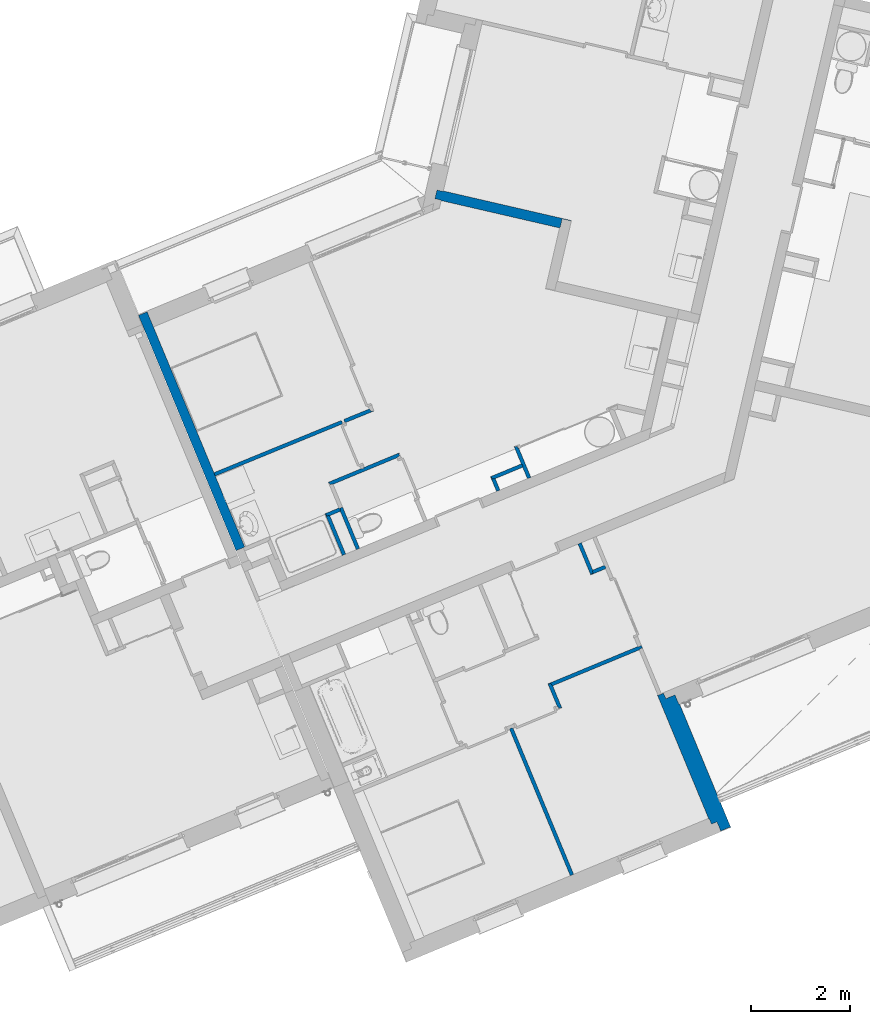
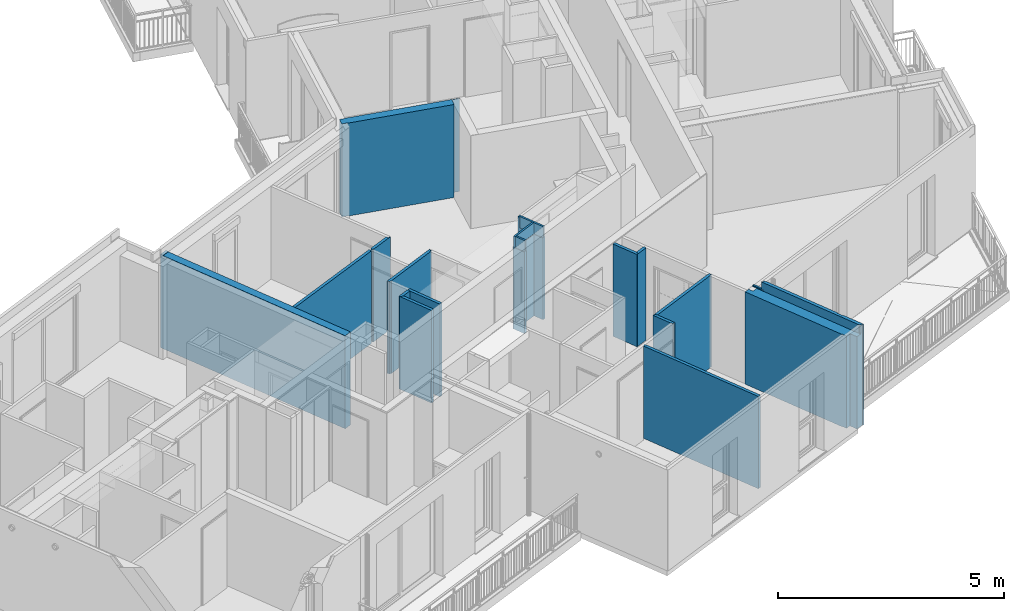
# One storey, part 43 of 90: 16 walls.
"""IFC2X3 building model written with IfcOpenShell, lengths in metres."""

from ifc_helpers import new_model, entity, si_unit, converted_unit, derived_unit, money_unit, direction, frame, origin_with_axes, place, context, subcontext, project, spatial, faceted_brep, material, material_list, type_object, element, save


model = new_model("IFC2X3")

# Units and contexts
model_context = context("Model", 3, precision=1e-05, world=origin_with_axes(), true_north=direction((0.0, 1.0)))
body_context = subcontext(model_context, "Body", "Model", "MODEL_VIEW")
ifc_project = project(units=[si_unit("LENGTHUNIT", "METRE"), si_unit("AREAUNIT", "SQUARE_METRE"), si_unit("VOLUMEUNIT", "CUBIC_METRE"), converted_unit("PLANEANGLEUNIT", "DEGREE", entity("IfcPlaneAngleMeasure", 0.0174532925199), si_unit("PLANEANGLEUNIT", "RADIAN"), dimensions=[0, 0, 0, 0, 0, 0, 0]), si_unit("SOLIDANGLEUNIT", "STERADIAN"), money_unit("EUR"), converted_unit("TIMEUNIT", "Year", entity("IfcTimeMeasure", 31556926.0), si_unit("TIMEUNIT", "SECOND"), dimensions=[0, 0, 1, 0, 0, 0, 0]), si_unit("MASSUNIT", "GRAM", prefix="KILO"), si_unit("THERMODYNAMICTEMPERATUREUNIT", "DEGREE_CELSIUS"), si_unit("LUMINOUSINTENSITYUNIT", "LUMEN"), si_unit("ENERGYUNIT", "JOULE", prefix="MEGA"), derived_unit("THERMALCONDUCTANCEUNIT", [(si_unit("POWERUNIT", "WATT"), 1), (si_unit("LENGTHUNIT", "METRE"), -1), (si_unit("THERMODYNAMICTEMPERATUREUNIT", "KELVIN"), -1)]), derived_unit("SPECIFICHEATCAPACITYUNIT", [(si_unit("ENERGYUNIT", "JOULE"), 1), (si_unit("MASSUNIT", "GRAM", prefix="KILO"), -1), (si_unit("THERMODYNAMICTEMPERATUREUNIT", "KELVIN"), -1)]), derived_unit("MASSDENSITYUNIT", [(si_unit("MASSUNIT", "GRAM", prefix="KILO"), 1), (si_unit("VOLUMEUNIT", "CUBIC_METRE"), -1)])], contexts=[model_context])

# Site, building, storey
site_placement = place(None, origin_with_axes())
site = spatial("IfcSite", under=ifc_project, at=site_placement, Name="Site", CompositionType="ELEMENT")
building_placement = place(site_placement, origin_with_axes())
building = spatial("IfcBuilding", under=site, at=building_placement, Name="Bâtiment", CompositionType="ELEMENT")
storey_placement = place(building_placement, frame((0.0, 0.0, 2.72), z_axis=(0.0, 0.0, 1.0), x_axis=(1.0, 0.0, 0.0)))
storey = spatial("IfcBuildingStorey", under=building, at=storey_placement, Name="R+1", CompositionType="ELEMENT", Elevation=2.72)

# Walls
ifc_material_1 = material(Name="Finition int - Plaque de plâtre")
ifc_material_2 = material(Name="Isolation - Laine de roche")
ifc_material_list_1 = material_list([ifc_material_1, ifc_material_2, ifc_material_1])
wall_type_1 = type_object("IfcWallType", Name="3 - Cloison 72mm Placostil 74", PredefinedType="USERDEFINED")
wall_1_placement = place(storey_placement, frame((-21.6551757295, -18.5120342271, 0.0), z_axis=(0.0, 0.0, 1.0), x_axis=(0.923701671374, 0.383112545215, 0.0)))
element("IfcWall", 1, at=wall_1_placement, inside=storey, type_object=wall_type_1, material=ifc_material_list_1, Name="Cloison Placostil 72/48", ObjectType="PARTITIONING", context=body_context, shape_type="Brep", body=[
    faceted_brep([(1.47399999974, -0.013, 2.5), (1.47399999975, 0.0, 2.5), (0.697460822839, 0.0, 2.5), (0.697460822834, -0.013, 2.5), (1.47399999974, -0.013, 0.0), (1.47399999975, 0.0, 0.0), (0.697460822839, 0.0, 0.0), (0.697460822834, -0.013, 0.0)], [[[0, 1, 2, 3]], [[1, 0, 4, 5]], [[1, 5, 6, 2]], [[7, 3, 2, 6]], [[4, 0, 3, 7]], [[5, 4, 7, 6]]]),
    faceted_brep([(0.649460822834, -0.013, 2.5), (0.649460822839, 0.0, 2.5), (-0.074, 0.0, 2.5), (-0.0740000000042, -0.013, 2.5), (0.649460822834, -0.013, 0.0), (0.649460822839, 0.0, 0.0), (-0.074, 0.0, 0.0), (-0.0740000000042, -0.013, 0.0)], [[[0, 1, 2, 3]], [[1, 0, 4, 5]], [[1, 5, 6, 2]], [[7, 3, 2, 6]], [[4, 0, 3, 7]], [[5, 4, 7, 6]]]),
    faceted_brep([(1.46099999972, -0.061, 2.5), (1.46099999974, -0.013, 2.5), (-0.0610000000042, -0.013, 2.5), (-0.0610000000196, -0.061, 2.5), (1.46099999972, -0.061, 0.0), (1.46099999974, -0.013, 0.0), (-0.0610000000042, -0.013, 0.0), (-0.0610000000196, -0.061, 0.0)], [[[0, 1, 2, 3]], [[1, 0, 4, 5]], [[1, 5, 6, 2]], [[7, 3, 2, 6]], [[4, 0, 3, 7]], [[5, 4, 7, 6]]]),
    faceted_brep([(1.41299999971, -0.074, 2.5), (1.41299999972, -0.061, 2.5), (-0.0130000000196, -0.061, 2.5), (-0.0130000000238, -0.074, 2.5), (1.41299999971, -0.074, 0.0), (1.41299999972, -0.061, 0.0), (-0.0130000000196, -0.061, 0.0), (-0.0130000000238, -0.074, 0.0)], [[[0, 1, 2, 3]], [[1, 0, 4, 5]], [[1, 5, 6, 2]], [[7, 3, 2, 6]], [[4, 0, 3, 7]], [[5, 4, 7, 6]]]),
])
wall_2_placement = place(storey_placement, frame((-17.0353278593, -23.0286213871, 0.0), z_axis=(0.0, 0.0, 1.0), x_axis=(-0.383112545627, 0.923701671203, 0.0)))
element("IfcWall", 2, at=wall_2_placement, inside=storey, type_object=wall_type_1, material=ifc_material_list_1, Name="Cloison Placostil 72/48", ObjectType="PARTITIONING", context=body_context, shape_type="Brep", body=[
    faceted_brep([(0.483900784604, 0.061, 2.49), (-0.0129999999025, 0.061, 2.49), (-0.0129999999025, 0.061, 0.0), (0.483900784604, 0.061, 0.0), (-0.0129999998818, 0.074, 2.49), (0.483900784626, 0.074, 2.49), (-0.0129999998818, 0.074, 0.0), (0.483900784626, 0.074, 0.0)], [[[0, 1, 2, 3]], [[4, 1, 0, 5]], [[1, 4, 6, 2]], [[7, 3, 2, 6]], [[5, 0, 3, 7]], [[4, 5, 7, 6]]]),
    faceted_brep([(0.470900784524, 0.013, 2.49), (-0.0609999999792, 0.013, 2.49), (-0.0609999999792, 0.013, 0.0), (0.470900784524, 0.013, 0.0), (-0.0609999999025, 0.061, 2.49), (0.470900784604, 0.061, 2.49), (-0.0609999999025, 0.061, 0.0), (0.470900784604, 0.061, 0.0)], [[[0, 1, 2, 3]], [[4, 1, 0, 5]], [[1, 4, 6, 2]], [[7, 3, 2, 6]], [[5, 0, 3, 7]], [[4, 5, 7, 6]]]),
    faceted_brep([(0.422900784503, 0.0, 2.49), (-0.074, 0.0, 2.49), (-0.074, 0.0, 0.0), (0.422900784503, 0.0, 0.0), (-0.0739999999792, 0.013, 2.49), (0.422900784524, 0.013, 2.49), (-0.0739999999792, 0.013, 0.0), (0.422900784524, 0.013, 0.0)], [[[0, 1, 2, 3]], [[4, 1, 0, 5]], [[1, 4, 6, 2]], [[7, 3, 2, 6]], [[5, 0, 3, 7]], [[4, 5, 7, 6]]]),
])
wall_3_placement = place(storey_placement, frame((-16.423962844, -20.4107605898, 0.0), z_axis=(0.0, 0.0, 1.0), x_axis=(0.92370167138, 0.383112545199, 0.0)))
element("IfcWall", 3, at=wall_3_placement, inside=storey, type_object=wall_type_1, material=ifc_material_list_1, Name="Cloison Placostil 72/48", ObjectType="PARTITIONING", context=body_context, shape_type="Brep", body=[
    faceted_brep([(0.323540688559, 0.074, 2.49), (0.323540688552, 0.061, 2.49), (0.323540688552, 0.061, 0.0), (0.323540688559, 0.074, 0.0), (0.0740000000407, 0.061, 2.49), (0.0740000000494, 0.074, 2.49), (0.0740000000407, 0.061, 0.0), (0.0740000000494, 0.074, 0.0)], [[[0, 1, 2, 3]], [[4, 1, 0, 5]], [[1, 4, 6, 2]], [[3, 2, 6, 7]], [[5, 0, 3, 7]], [[4, 5, 7, 6]]]),
    faceted_brep([(0.336540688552, 0.061, 2.49), (0.336540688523, 0.013, 2.49), (0.336540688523, 0.013, 0.0), (0.336540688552, 0.061, 0.0), (0.0610000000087, 0.013, 2.49), (0.0610000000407, 0.061, 2.49), (0.0610000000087, 0.013, 0.0), (0.0610000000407, 0.061, 0.0)], [[[0, 1, 2, 3]], [[4, 1, 0, 5]], [[1, 4, 6, 2]], [[3, 2, 6, 7]], [[5, 0, 3, 7]], [[4, 5, 7, 6]]]),
    faceted_brep([(0.323540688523, 0.013, 2.49), (0.323540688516, 0.0, 2.49), (0.323540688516, 0.0, 0.0), (0.323540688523, 0.013, 0.0), (0.013, 0.0, 2.49), (0.0130000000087, 0.013, 2.49), (0.013, 0.0, 0.0), (0.0130000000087, 0.013, 0.0)], [[[0, 1, 2, 3]], [[4, 1, 0, 5]], [[1, 4, 6, 2]], [[3, 2, 6, 7]], [[5, 0, 3, 7]], [[4, 5, 7, 6]]]),
])
wall_4_placement = place(storey_placement, frame((-17.2207163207, -22.5816414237, 0.0), z_axis=(0.0, 0.0, 1.0), x_axis=(0.923701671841, 0.383112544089, 0.0)))
element("IfcWall", 4, at=wall_4_placement, inside=storey, type_object=wall_type_1, material=ifc_material_list_1, Name="Cloison Placostil 72/48", ObjectType="PARTITIONING", context=body_context, shape_type="Brep", body=[
    faceted_brep([(1.90419488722, 0.0, 2.49), (1.90419488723, -0.013, 2.49), (1.90419488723, -0.013, 0.0), (1.90419488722, 0.0, 0.0), (-0.0609999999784, -0.013, 2.49), (-0.061, 0.0, 2.49), (-0.0609999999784, -0.013, 0.0), (-0.061, 0.0, 0.0)], [[[0, 1, 2, 3]], [[4, 1, 0, 5]], [[1, 4, 6, 2]], [[3, 2, 6, 7]], [[5, 0, 3, 7]], [[4, 5, 7, 6]]]),
    faceted_brep([(1.96519488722, 0.0, 2.49), (1.96519488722, -0.013, 2.49), (1.96519488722, -0.013, 0.0), (1.96519488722, 0.0, 0.0), (1.95219488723, -0.013, 2.49), (1.95219488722, 0.0, 2.49), (1.95219488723, -0.013, 0.0), (1.95219488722, 0.0, 0.0)], [[[0, 1, 2, 3]], [[4, 1, 0, 5]], [[1, 4, 6, 2]], [[7, 3, 2, 6]], [[5, 0, 3, 7]], [[4, 5, 7, 6]]]),
    faceted_brep([(1.96519488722, -0.013, 2.49), (1.96519488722, -0.061, 2.49), (1.96519488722, -0.061, 0.0), (1.96519488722, -0.013, 0.0), (-0.0129999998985, -0.061, 2.49), (-0.0129999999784, -0.013, 2.49), (-0.0129999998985, -0.061, 0.0), (-0.0129999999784, -0.013, 0.0)], [[[0, 1, 2, 3]], [[4, 1, 0, 5]], [[1, 4, 6, 2]], [[7, 3, 2, 6]], [[5, 0, 3, 7]], [[4, 5, 7, 6]]]),
    faceted_brep([(1.90419488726, -0.061, 2.49), (1.90419488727, -0.074, 2.49), (1.90419488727, -0.074, 0.0), (1.90419488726, -0.061, 0.0), (1.23140608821e-10, -0.074, 2.49), (1.01504582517e-10, -0.061, 2.49), (1.23140608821e-10, -0.074, 0.0), (1.01504582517e-10, -0.061, 0.0)], [[[0, 1, 2, 3]], [[4, 1, 0, 5]], [[1, 4, 6, 2]], [[3, 2, 6, 7]], [[5, 0, 3, 7]], [[4, 5, 7, 6]]]),
    faceted_brep([(1.96519488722, -0.061, 2.49), (1.96519488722, -0.074, 2.49), (1.96519488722, -0.074, 0.0), (1.96519488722, -0.061, 0.0), (1.95219488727, -0.074, 2.49), (1.95219488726, -0.061, 2.49), (1.95219488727, -0.074, 0.0), (1.95219488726, -0.061, 0.0)], [[[0, 1, 2, 3]], [[4, 1, 0, 5]], [[1, 4, 6, 2]], [[7, 3, 2, 6]], [[5, 0, 3, 7]], [[4, 5, 7, 6]]]),
])
wall_5_placement = place(storey_placement, frame((-20.8008531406, -17.1002798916, 0.0), z_axis=(0.0, 0.0, 1.0), x_axis=(-0.925270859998, -0.379307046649, 0.0)))
element("IfcWall", 5, at=wall_5_placement, inside=storey, type_object=wall_type_1, material=ifc_material_list_1, Name="Cloison Placostil 72/48", ObjectType="PARTITIONING", context=body_context, shape_type="Brep", body=[
    faceted_brep([(0.619597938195, -0.013, 2.5), (0.61954442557, 0.0, 2.5), (0.013000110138, 0.0, 2.5), (0.0130536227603, -0.013, 2.5), (0.619597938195, -0.013, 0.0), (0.61954442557, 0.0, 0.0), (0.013000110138, 0.0, 0.0), (0.0130536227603, -0.013, 0.0)], [[[0, 1, 2, 3]], [[1, 0, 4, 5]], [[1, 5, 6, 2]], [[7, 3, 2, 6]], [[4, 0, 3, 7]], [[5, 4, 7, 6]]]),
    faceted_brep([(0.693598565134, -0.013, 2.5), (3.46402934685, -0.013, 2.5), (3.46402934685, 0.0, 2.5), (0.69354505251, 0.0, 2.5), (0.693598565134, -0.013, 0.0), (3.46402934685, -0.013, 0.0), (3.46402934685, 0.0, 0.0), (0.69354505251, 0.0, 0.0)], [[[0, 1, 2, 3]], [[4, 5, 1, 0]], [[2, 1, 5, 6]], [[3, 2, 6, 7]], [[4, 0, 3, 7]], [[7, 6, 5, 4]]]),
    faceted_brep([(0.632795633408, -0.061, 2.5), (0.632598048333, -0.013, 2.5), (0.0610540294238, -0.013, 2.5), (0.0612516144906, -0.061, 2.5), (0.632795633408, -0.061, 0.0), (0.632598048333, -0.013, 0.0), (0.0610540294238, -0.013, 0.0), (0.0612516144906, -0.061, 0.0)], [[[0, 1, 2, 3]], [[1, 0, 4, 5]], [[1, 5, 6, 2]], [[7, 3, 2, 6]], [[4, 0, 3, 7]], [[5, 4, 7, 6]]]),
    faceted_brep([(0.680796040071, -0.061, 2.5), (3.46402934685, -0.061, 2.5), (3.46402934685, -0.013, 2.5), (0.680598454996, -0.013, 2.5), (0.680796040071, -0.061, 0.0), (3.46402934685, -0.061, 0.0), (3.46402934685, -0.013, 0.0), (0.680598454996, -0.013, 0.0)], [[[0, 1, 2, 3]], [[4, 5, 1, 0]], [[2, 1, 5, 6]], [[3, 2, 6, 7]], [[4, 0, 3, 7]], [[7, 6, 5, 4]]]),
    faceted_brep([(0.619849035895, -0.074, 2.5), (0.61979552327, -0.061, 2.5), (0.0742517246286, -0.061, 2.5), (0.0743052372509, -0.074, 2.5), (0.619849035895, -0.074, 0.0), (0.61979552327, -0.061, 0.0), (0.0742517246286, -0.061, 0.0), (0.0743052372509, -0.074, 0.0)], [[[0, 1, 2, 3]], [[1, 0, 4, 5]], [[1, 5, 6, 2]], [[7, 3, 2, 6]], [[4, 0, 3, 7]], [[5, 4, 7, 6]]]),
    faceted_brep([(0.693849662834, -0.074, 2.5), (3.46402934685, -0.074, 2.5), (3.46402934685, -0.061, 2.5), (0.69379615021, -0.061, 2.5), (0.693849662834, -0.074, 0.0), (3.46402934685, -0.074, 0.0), (3.46402934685, -0.061, 0.0), (0.69379615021, -0.061, 0.0)], [[[0, 1, 2, 3]], [[4, 5, 1, 0]], [[2, 1, 5, 6]], [[3, 2, 6, 7]], [[4, 0, 3, 7]], [[7, 6, 5, 4]]]),
])
wall_6_placement = place(storey_placement, frame((-17.7023301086, -18.4683136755, 0.0), z_axis=(0.0, 0.0, 1.0), x_axis=(-0.383112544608, 0.923701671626, 0.0)))
element("IfcWall", 6, at=wall_6_placement, inside=storey, type_object=wall_type_1, material=ifc_material_list_1, Name="Cloison Placostil 72/48", ObjectType="PARTITIONING", context=body_context, shape_type="Brep", body=[
    faceted_brep([(0.263000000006, -0.013, 2.2), (-1.30345512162e-10, -0.013, 2.2), (0.0, -0.013, 0.0), (0.263000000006, -0.013, 0.0), (-1.37095668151e-10, 0.0, 2.2), (0.263, 0.0, 2.2), (0.0, 0.0, 0.0), (0.263, 0.0, 0.0)], [[[0, 1, 2, 3]], [[4, 1, 0, 5]], [[1, 4, 6, 2]], [[7, 3, 2, 6]], [[5, 0, 3, 7]], [[4, 5, 7, 6]]]),
    faceted_brep([(0.649999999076, -0.013, 2.5), (0.649999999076, -0.013, 2.2), (0.311000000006, -0.013, 2.2), (0.311000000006, -0.013, 0.0), (0.69999999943, -0.013, 0.0), (0.69999999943, -0.013, 2.5), (0.64999999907, 0.0, 2.5), (0.64999999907, 0.0, 2.2), (0.311, 0.0, 2.2), (0.311, 0.0, 0.0), (0.699999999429, 0.0, 0.0), (0.699999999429, 0.0, 2.5)], [[[0, 1, 2, 3, 4, 5]], [[1, 0, 6, 7]], [[8, 2, 1, 7]], [[2, 8, 9, 3]], [[10, 4, 3, 9]], [[11, 5, 4, 10]], [[6, 0, 5, 11]], [[7, 6, 11, 10, 9, 8]]]),
    faceted_brep([(0.686999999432, -0.061, 2.5), (0.68699999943, -0.013, 2.5), (0.0, -0.013, 2.5), (0.0, -0.061, 2.5), (0.686999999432, -0.061, 0.0), (0.68699999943, -0.013, 0.0), (0.0, -0.013, 0.0), (0.0, -0.061, 0.0)], [[[0, 1, 2, 3]], [[1, 0, 4, 5]], [[1, 5, 6, 2]], [[7, 3, 2, 6]], [[4, 0, 3, 7]], [[5, 4, 7, 6]]]),
    faceted_brep([(0.638999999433, -0.074, 2.2), (0.0, -0.074, 2.2), (0.0, -0.074, 0.0), (0.638999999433, -0.074, 0.0), (-1.05412567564e-10, -0.061, 2.2), (0.638999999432, -0.061, 2.2), (0.0, -0.061, 0.0), (0.638999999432, -0.061, 0.0)], [[[0, 1, 2, 3]], [[4, 1, 0, 5]], [[1, 4, 6, 2]], [[7, 3, 2, 6]], [[5, 0, 3, 7]], [[4, 5, 7, 6]]]),
])
wall_7_placement = place(storey_placement, frame((-17.826458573, -18.1690343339, 0.0), z_axis=(0.0, 0.0, 1.0), x_axis=(-0.923701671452, -0.383112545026, 0.0)))
element("IfcWall", 7, at=wall_7_placement, inside=storey, type_object=wall_type_1, material=ifc_material_list_1, Name="Cloison Placostil 72/48", ObjectType="PARTITIONING", context=body_context, shape_type="Brep", body=[
    faceted_brep([(0.0, 0.061, 2.2), (0.0, 0.074, 2.2), (0.0, 0.074, 0.0), (0.0, 0.061, 0.0), (0.613000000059, 0.074, 2.2), (0.613000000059, 0.061, 2.2), (0.613000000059, 0.074, 0.0), (0.613000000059, 0.061, 0.0)], [[[0, 1, 2, 3]], [[4, 1, 0, 5]], [[1, 4, 6, 2]], [[6, 7, 3, 2]], [[5, 0, 3, 7]], [[4, 5, 7, 6]]]),
    faceted_brep([(0.661000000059, 0.061, 0.0), (0.661000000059, 0.013, 0.0), (-0.0130000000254, 0.013, 0.0), (-0.0130000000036, 0.061, 0.0), (0.661000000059, 0.061, 2.5), (0.661000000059, 0.013, 2.5), (-0.0130000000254, 0.013, 2.5), (-0.0130000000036, 0.061, 2.5)], [[[0, 1, 2, 3]], [[1, 0, 4, 5]], [[1, 5, 6, 2]], [[7, 3, 2, 6]], [[4, 0, 3, 7]], [[5, 4, 7, 6]]]),
    faceted_brep([(0.0, 0.0, 2.2), (0.0, 0.013, 2.2), (0.0, 0.013, 0.0), (0.0, 0.0, 0.0), (0.674000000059, 0.013, 2.2), (0.674000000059, 0.0, 2.2), (0.674000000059, 0.013, 0.0), (0.674000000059, 0.0, 0.0)], [[[0, 1, 2, 3]], [[4, 1, 0, 5]], [[1, 4, 6, 2]], [[6, 7, 3, 2]], [[5, 0, 3, 7]], [[4, 5, 7, 6]]]),
])
wall_8_placement = place(storey_placement, frame((-18.0212047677, -23.4375216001, 0.0), z_axis=(0.0, 0.0, 1.0), x_axis=(0.383112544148, -0.923701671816, 0.0)))
element("IfcWall", 8, at=wall_8_placement, inside=storey, type_object=wall_type_1, material=ifc_material_list_1, Name="Cloison Placostil 72/48", ObjectType="PARTITIONING", context=body_context, shape_type="Brep", body=[
    faceted_brep([(0.0740000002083, 0.0, 2.49), (3.26900002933, 0.0, 2.49), (3.26900002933, 0.0, 0.0), (0.0740000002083, 0.0, 0.0), (3.26900002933, -0.013, 2.49), (0.0740000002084, -0.013, 2.49), (3.26900002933, -0.013, 0.0), (0.0740000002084, -0.013, 0.0)], [[[0, 1, 2, 3]], [[4, 1, 0, 5]], [[1, 4, 6, 2]], [[3, 2, 6, 7]], [[5, 0, 3, 7]], [[4, 5, 7, 6]]]),
    faceted_brep([(0.0610000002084, -0.013, 2.49), (3.26900002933, -0.013, 2.49), (3.26900002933, -0.013, 0.0), (0.0610000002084, -0.013, 0.0), (3.26900002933, -0.061, 2.49), (0.0610000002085, -0.061, 2.49), (3.26900002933, -0.061, 0.0), (0.0610000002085, -0.061, 0.0)], [[[0, 1, 2, 3]], [[4, 1, 0, 5]], [[1, 4, 6, 2]], [[3, 2, 6, 7]], [[5, 0, 3, 7]], [[4, 5, 7, 6]]]),
    faceted_brep([(0.0740000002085, -0.061, 2.49), (3.26900002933, -0.061, 2.49), (3.26900002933, -0.061, 0.0), (0.0740000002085, -0.061, 0.0), (3.26900002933, -0.074, 2.49), (0.0740000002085, -0.074, 2.49), (3.26900002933, -0.074, 0.0), (0.0740000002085, -0.074, 0.0)], [[[0, 1, 2, 3]], [[4, 1, 0, 5]], [[1, 4, 6, 2]], [[3, 2, 6, 7]], [[5, 0, 3, 7]], [[4, 5, 7, 6]]]),
])
wall_9_placement = place(storey_placement, frame((-16.6821806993, -19.7881856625, 0.0), z_axis=(0.0, 0.0, 1.0), x_axis=(0.383112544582, -0.923701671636, 0.0)))
element("IfcWall", 9, at=wall_9_placement, inside=storey, type_object=wall_type_1, material=ifc_material_list_1, Name="Cloison Placostil 72/48", ObjectType="PARTITIONING", context=body_context, shape_type="Brep", body=[
    faceted_brep([(0.0, 0.074, 2.49), (0.613000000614, 0.074, 2.49), (0.613000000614, 0.074, 0.0), (0.0, 0.074, 0.0), (0.613000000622, 0.061, 2.49), (0.0, 0.061, 2.49), (0.613000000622, 0.061, 0.0), (0.0, 0.061, 0.0)], [[[0, 1, 2, 3]], [[4, 1, 0, 5]], [[1, 4, 6, 2]], [[2, 6, 7, 3]], [[5, 0, 3, 7]], [[4, 5, 7, 6]]]),
    faceted_brep([(0.0, 0.061, 2.49), (0.661000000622, 0.061, 2.49), (0.661000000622, 0.061, 0.0), (0.0, 0.061, 0.0), (0.661000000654, 0.013, 2.49), (0.0, 0.013, 2.49), (0.661000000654, 0.013, 0.0), (0.0, 0.013, 0.0)], [[[0, 1, 2, 3]], [[4, 1, 0, 5]], [[1, 4, 6, 2]], [[2, 6, 7, 3]], [[5, 0, 3, 7]], [[4, 5, 7, 6]]]),
    faceted_brep([(0.0, 0.013, 2.49), (0.674000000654, 0.013, 2.49), (0.674000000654, 0.013, 0.0), (0.0, 0.013, 0.0), (0.674000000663, 0.0, 2.49), (0.0, 0.0, 2.49), (0.674000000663, 0.0, 0.0), (0.0, 0.0, 0.0)], [[[0, 1, 2, 3]], [[4, 1, 0, 5]], [[1, 4, 6, 2]], [[2, 6, 7, 3]], [[5, 0, 3, 7]], [[4, 5, 7, 6]]]),
])
wall_10_placement = place(storey_placement, frame((-18.4490334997, -18.4272521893, 0.0), z_axis=(0.0, 0.0, 1.0), x_axis=(0.383112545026, -0.923701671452, 0.0)))
element("IfcWall", 10, at=wall_10_placement, inside=storey, type_object=wall_type_1, material=ifc_material_list_1, Name="Cloison Placostil 72/48", ObjectType="PARTITIONING", context=body_context, shape_type="Brep", body=[
    faceted_brep([(0.074, 0.074, 2.2), (0.324000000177, 0.074, 2.2), (0.324, 0.074, 0.0), (0.074, 0.074, 0.0), (0.324000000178, 0.061, 2.2), (0.074, 0.061, 2.2), (0.324, 0.061, 0.0), (0.074, 0.061, 0.0)], [[[0, 1, 2, 3]], [[4, 1, 0, 5]], [[1, 4, 6, 2]], [[3, 2, 6, 7]], [[5, 0, 3, 7]], [[4, 5, 7, 6]]]),
    faceted_brep([(0.061, 0.061, 0.0), (0.324, 0.061, 0.0), (0.324, 0.013, 0.0), (0.061, 0.013, 0.0), (0.061, 0.061, 2.5), (0.324, 0.061, 2.5), (0.324, 0.013, 2.5), (0.061, 0.013, 2.5)], [[[0, 1, 2, 3]], [[4, 5, 1, 0]], [[2, 1, 5, 6]], [[3, 2, 6, 7]], [[4, 0, 3, 7]], [[7, 6, 5, 4]]]),
    faceted_brep([(0.013, 0.013, 2.2), (0.324000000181, 0.013, 2.2), (0.324, 0.013, 0.0), (0.013, 0.013, 0.0), (0.324000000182, 0.0, 2.2), (0.013, 0.0, 2.2), (0.324, 0.0, 0.0), (0.013, 0.0, 0.0)], [[[0, 1, 2, 3]], [[4, 1, 0, 5]], [[1, 4, 6, 2]], [[3, 2, 6, 7]], [[5, 0, 3, 7]], [[4, 5, 7, 6]]]),
])
ifc_material_3 = material(Name="Finition int - Enduit plâtre")
ifc_material_4 = material(Name="Béton")
ifc_material_list_2 = material_list([ifc_material_3, ifc_material_4, ifc_material_3])
wall_type_2 = type_object("IfcWallType", Name="2 - Murs Béton 18 + Enduit 2 Faces 200", PredefinedType="USERDEFINED")
wall_11_placement = place(storey_placement, frame((-19.7393073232, -12.5902779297, 0.0), z_axis=(0.0, 0.0, 1.0), x_axis=(0.974387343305, -0.224876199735, 0.0)))
element("IfcWall", 11, at=wall_11_placement, inside=storey, type_object=wall_type_2, material=ifc_material_list_2, Name="M_Ext-008", ObjectType="SOLIDWALL", context=body_context, shape_type="Brep", body=[
    faceted_brep([(0.344999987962, 0.01, 2.51), (2.98998157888, 0.01, 2.51), (2.98998157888, 0.00999999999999, 0.0), (0.344999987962, 0.01, 0.0), (2.98998157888, 0.0, 2.51), (0.344999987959, 0.0, 2.51), (2.98998157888, 0.0, 0.0), (0.344999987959, 0.0, 0.0)], [[[0, 1, 2, 3]], [[4, 1, 0, 5]], [[1, 4, 6, 2]], [[6, 7, 3, 2]], [[5, 0, 3, 7]], [[4, 5, 7, 6]]]),
    faceted_brep([(0.214999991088, 0.0, 2.51), (2.80998157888, 0.0, 2.51), (2.80998157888, 0.0, 0.0), (0.214999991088, 0.0, 0.0), (2.80998157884, -0.18, 2.51), (0.214999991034, -0.18, 2.51), (2.80998157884, -0.18, 0.0), (0.214999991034, -0.18, 0.0)], [[[0, 1, 2, 3]], [[4, 1, 0, 5]], [[1, 4, 6, 2]], [[6, 7, 3, 2]], [[5, 0, 3, 7]], [[4, 5, 7, 6]]]),
    faceted_brep([(0.344999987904, -0.18, 2.51), (2.79998157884, -0.18, 2.51), (2.79998157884, -0.18, 0.0), (0.344999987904, -0.18, 0.0), (2.79998157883, -0.19, 2.51), (0.344999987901, -0.19, 2.51), (2.79998157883, -0.19, 0.0), (0.344999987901, -0.19, 0.0)], [[[0, 1, 2, 3]], [[4, 1, 0, 5]], [[1, 4, 6, 2]], [[6, 7, 3, 2]], [[5, 0, 3, 7]], [[4, 5, 7, 6]]]),
])
wall_type_3 = type_object("IfcWallType", Name="3 - Cloison Gaine Technique 72mm 74", PredefinedType="USERDEFINED")
wall_12_placement = place(storey_placement, frame((-21.7899938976, -19.1752900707, 0.0), z_axis=(0.0, 0.0, 1.0), x_axis=(0.923701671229, 0.383112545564, 0.0)))
element("IfcWall", 12, at=wall_12_placement, inside=storey, type_object=wall_type_3, material=ifc_material_list_1, Name="Cloison Placostil 72/48", ObjectType="PARTITIONING", context=body_context, shape_type="Brep", body=[
    faceted_brep([(0.304633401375, -0.013, 2.5), (0.304633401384, 0.0, 2.5), (0.0, 0.0, 2.5), (0.0, -0.013, 2.5), (0.304633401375, -0.013, 0.0), (0.304633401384, 0.0, 0.0), (0.0, 0.0, 0.0), (0.0, -0.013, 0.0)], [[[0, 1, 2, 3]], [[1, 0, 4, 5]], [[1, 5, 6, 2]], [[7, 3, 2, 6]], [[4, 0, 3, 7]], [[5, 4, 7, 6]]]),
    faceted_brep([(0.317633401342, -0.061, 2.5), (0.317633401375, -0.013, 2.5), (0.013, -0.013, 2.5), (0.013, -0.061, 2.5), (0.317633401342, -0.061, 0.0), (0.317633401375, -0.013, 0.0), (0.013, -0.013, 0.0), (0.013, -0.061, 0.0)], [[[0, 1, 2, 3]], [[1, 0, 4, 5]], [[1, 5, 6, 2]], [[7, 3, 2, 6]], [[4, 0, 3, 7]], [[5, 4, 7, 6]]]),
    faceted_brep([(0.304633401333, -0.074, 2.5), (0.304633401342, -0.061, 2.5), (0.061, -0.061, 2.5), (0.061, -0.074, 2.5), (0.304633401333, -0.074, 0.0), (0.304633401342, -0.061, 0.0), (0.061, -0.061, 0.0), (0.061, -0.074, 0.0)], [[[0, 1, 2, 3]], [[1, 0, 4, 5]], [[1, 5, 6, 2]], [[7, 3, 2, 6]], [[4, 0, 3, 7]], [[5, 4, 7, 6]]]),
])
wall_13_placement = place(storey_placement, frame((-21.7899938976, -19.1752900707, 0.0), z_axis=(0.0, 0.0, 1.0), x_axis=(0.383112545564, -0.923701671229, 0.0)))
element("IfcWall", 13, at=wall_13_placement, inside=storey, type_object=wall_type_3, material=ifc_material_list_1, Name="Cloison Placostil 72/48", ObjectType="PARTITIONING", context=body_context, shape_type="Brep", body=[
    faceted_brep([(0.074, 0.074, 0.0), (0.912999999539, 0.074, 0.0), (0.912999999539, 0.061, 0.0), (0.074, 0.061, 0.0), (0.074, 0.074, 2.5), (0.912999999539, 0.074, 2.5), (0.912999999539, 0.061, 2.5), (0.074, 0.061, 2.5)], [[[0, 1, 2, 3]], [[4, 5, 1, 0]], [[2, 1, 5, 6]], [[3, 2, 6, 7]], [[4, 0, 3, 7]], [[7, 6, 5, 4]]]),
    faceted_brep([(0.061, 0.061, 0.0), (0.912999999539, 0.061, 0.0), (0.912999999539, 0.013, 0.0), (0.061, 0.013, 0.0), (0.061, 0.061, 2.5), (0.912999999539, 0.061, 2.5), (0.912999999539, 0.013, 2.5), (0.061, 0.013, 2.5)], [[[0, 1, 2, 3]], [[4, 5, 1, 0]], [[2, 1, 5, 6]], [[3, 2, 6, 7]], [[4, 0, 3, 7]], [[7, 6, 5, 4]]]),
    faceted_brep([(0.013, 0.013, 0.0), (0.912999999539, 0.013, 0.0), (0.912999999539, 0.0, 0.0), (0.013, 0.0, 0.0), (0.013, 0.013, 2.5), (0.912999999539, 0.013, 2.5), (0.912999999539, 0.0, 2.5), (0.013, 0.0, 2.5)], [[[0, 1, 2, 3]], [[4, 5, 1, 0]], [[2, 1, 5, 6]], [[3, 2, 6, 7]], [[4, 0, 3, 7]], [[7, 6, 5, 4]]]),
])
wall_14_placement = place(storey_placement, frame((-21.4352691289, -19.0422389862, 0.0), z_axis=(0.0, 0.0, 1.0), x_axis=(0.383112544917, -0.923701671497, 0.0)))
element("IfcWall", 14, at=wall_14_placement, inside=storey, type_object=wall_type_3, material=ifc_material_list_1, Name="Cloison Placostil 72/48", ObjectType="PARTITIONING", context=body_context, shape_type="Brep", body=[
    faceted_brep([(0.0, -0.013, 2.5), (0.900000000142, -0.013, 2.5), (0.900000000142, 0.0, 2.5), (0.0, 0.0, 2.5), (0.0, -0.013, 0.0), (0.900000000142, -0.013, 0.0), (0.900000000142, 0.0, 0.0), (0.0, 0.0, 0.0)], [[[0, 1, 2, 3]], [[4, 5, 1, 0]], [[2, 1, 5, 6]], [[3, 2, 6, 7]], [[4, 0, 3, 7]], [[7, 6, 5, 4]]]),
    faceted_brep([(0.0, -0.061, 2.5), (0.900000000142, -0.061, 2.5), (0.900000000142, -0.013, 2.5), (0.0, -0.013, 2.5), (0.0, -0.061, 0.0), (0.900000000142, -0.061, 0.0), (0.900000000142, -0.013, 0.0), (0.0, -0.013, 0.0)], [[[0, 1, 2, 3]], [[4, 5, 1, 0]], [[2, 1, 5, 6]], [[3, 2, 6, 7]], [[4, 0, 3, 7]], [[7, 6, 5, 4]]]),
    faceted_brep([(0.0, -0.074, 2.5), (0.900000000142, -0.074, 2.5), (0.900000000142, -0.061, 2.5), (0.0, -0.061, 2.5), (0.0, -0.074, 0.0), (0.900000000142, -0.074, 0.0), (0.900000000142, -0.061, 0.0), (0.0, -0.061, 0.0)], [[[0, 1, 2, 3]], [[4, 5, 1, 0]], [[2, 1, 5, 6]], [[3, 2, 6, 7]], [[4, 0, 3, 7]], [[7, 6, 5, 4]]]),
])
ifc_material_list_3 = material_list([ifc_material_3, ifc_material_4])
wall_type_4 = type_object("IfcWallType", Name="2 - Murs Béton 18 + Enduit 1 Face 190", PredefinedType="USERDEFINED")
wall_15_placement = place(storey_placement, frame((-25.5567966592, -15.1711523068, 0.0), z_axis=(0.0, 0.0, 1.0), x_axis=(0.383112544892, -0.923701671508, 0.0)))
element("IfcWall", 15, at=wall_15_placement, inside=storey, type_object=wall_type_4, material=ifc_material_list_3, Name="M_Ext-008", ObjectType="SOLIDWALL", context=body_context, shape_type="Brep", body=[
    faceted_brep([(0.0683226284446, 0.19, 2.52), (0.0683226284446, 0.19, 2.51), (5.1417381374, 0.19, 2.51), (5.1417381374, 0.19, 0.0), (0.0, 0.19, 0.0), (0.0, 0.19, 2.52), (0.0683231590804, 0.18, 2.52), (0.0683231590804, 0.18, 2.51), (5.1417381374, 0.18, 2.51), (5.1417381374, 0.18, 0.0), (0.0, 0.18, 0.0), (0.0, 0.18, 2.52)], [[[0, 1, 2, 3, 4, 5]], [[1, 0, 6, 7]], [[8, 2, 1, 7]], [[2, 8, 9, 3]], [[9, 10, 4, 3]], [[10, 11, 5, 4]], [[6, 0, 5, 11]], [[7, 6, 11, 10, 9, 8]]]),
    faceted_brep([(0.0683231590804, 0.18, 2.52), (0.0683231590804, 0.18, 2.51), (5.1417381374, 0.18, 2.51), (5.1417381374, 0.18, 0.0), (0.0, 0.18, 0.0), (0.0, 0.18, 2.52), (0.0683327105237, -3.74143382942e-10, 2.52), (0.0683327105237, -3.74143382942e-10, 2.51), (5.1417381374, 0.0, 2.51), (5.1417381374, 0.0, 0.0), (0.0, 0.0, 0.0), (0.0, 0.0, 2.52)], [[[0, 1, 2, 3, 4, 5]], [[1, 0, 6, 7]], [[8, 2, 1, 7]], [[2, 8, 9, 3]], [[9, 10, 4, 3]], [[10, 11, 5, 4]], [[6, 0, 5, 11]], [[7, 6, 11, 10, 9, 8]]]),
])
ifc_material_5 = material(Name="Finition ext - Crépis")
ifc_material_6 = material(Name="Béton cellulaire")
ifc_material_7 = material(Name="Mortier")
ifc_material_8 = material(Name="Isolation - Polystyrène expansé")
ifc_material_9 = material(Name="Bloc ELITHERM")
ifc_material_10 = material(Name="Isolation - Polystyrène extrudé")
ifc_material_list_4 = material_list([ifc_material_5, ifc_material_6, ifc_material_7, ifc_material_8, ifc_material_9, ifc_material_10, ifc_material_1])
wall_type_5 = type_object("IfcWallType", Name="Mur ALKERN + planelle 23 345 x 2720", PredefinedType="USERDEFINED")
wall_16_placement = place(storey_placement, frame((-14.6264330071, -23.0257640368, 0.0), z_axis=(0.0, 0.0, 1.0), x_axis=(0.383112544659, -0.923701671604, 0.0)))
element("IfcWall", 16, at=wall_16_placement, inside=storey, type_object=wall_type_5, material=ifc_material_list_4, Name="Mue bloc ALKERN isolé", ObjectType="SOLIDWALL", context=body_context, shape_type="Brep", body=[
    faceted_brep([(-0.015, 0.0, 2.51), (-0.015, 0.0, 2.51999999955), (-0.015, 0.0, 2.72), (1.98499999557, 0.0, 2.72), (1.98499999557, 0.0, 2.50872065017), (1.98499999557, 0.0, 2.5), (2.11025901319, 0.0, 2.5), (2.12999999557, 0.0, 2.5), (2.14499999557, 0.0, 2.5), (2.14499999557, 0.0, 2.50872065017), (2.14499999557, 0.0, 2.72), (2.69376150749, 0.0, 2.72), (2.69376150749, 0.0, 0.0), (2.14499999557, 0.0, 0.0), (2.14499999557, 0.0, 0.01), (2.13501946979, 0.0, 0.0193762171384), (1.99498052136, 0.0, 0.0106237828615), (1.98499999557, 0.0, 0.0), (-0.015, 0.0, 0.0), (-0.015, 0.0, 2.49), (-0.015, 0.0, 2.5), (-0.015, -0.0149999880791, 2.51), (-0.015, -0.0149999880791, 2.51999999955), (-0.015, -0.0149999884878, 2.72), (1.98499999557, -0.01500000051, 2.72), (1.98499999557, -0.01500000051, 2.50872065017), (1.98499999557, -0.01500000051, 2.5), (2.11025901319, -0.0150000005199, 2.5), (2.12999999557, -0.0150000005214, 2.5), (2.14499999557, -0.0150000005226, 2.5), (2.14499999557, -0.0150000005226, 2.50872065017), (2.14499999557, -0.0150000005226, 2.72), (2.69376150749, -0.0149999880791, 2.72), (2.69376150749, -0.0149999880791, 0.0), (2.14499999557, -0.0150000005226, 0.0), (2.14499999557, -0.0150000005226, 0.01), (2.13501946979, -0.0150000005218, 0.0193762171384), (1.99498052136, -0.0150000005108, 0.0106237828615), (1.98499999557, -0.01500000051, 0.0), (-0.015, -0.0149999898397, 0.0), (-0.015, -0.0149999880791, 2.49), (-0.015, -0.0149999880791, 2.5)], [[[0, 1, 2, 3, 4, 5, 6, 7, 8, 9, 10, 11, 12, 13, 14, 15, 16, 17, 18, 19, 20]], [[21, 22, 1, 0]], [[22, 23, 2, 1]], [[3, 2, 23, 24]], [[25, 4, 3, 24]], [[5, 4, 25, 26]], [[26, 27, 6, 5]], [[27, 28, 7, 6]], [[29, 8, 7, 28]], [[29, 30, 9, 8]], [[30, 31, 10, 9]], [[11, 10, 31, 32]], [[32, 33, 12, 11]], [[33, 34, 13, 12]], [[35, 14, 13, 34]], [[36, 15, 14, 35]], [[37, 16, 15, 36]], [[38, 17, 16, 37]], [[38, 39, 18, 17]], [[39, 40, 19, 18]], [[40, 41, 20, 19]], [[41, 21, 0, 20]], [[24, 23, 22, 21, 41, 40, 39, 38, 37, 36, 35, 34, 33, 32, 31, 30, 29, 28, 27, 26, 25]]]),
    faceted_brep([(-0.0630000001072, -0.015, 2.51999999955), (-0.0630000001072, -0.015, 2.72), (2.67876153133, -0.015, 2.72), (2.67876153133, -0.015, 2.5), (-0.344999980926, -0.015, 2.5000000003), (-0.344999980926, -0.015, 2.51000000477), (-0.083, -0.015, 2.51), (-0.015, -0.015, 2.51), (-0.015, -0.015, 2.52), (-0.0630000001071, -0.0630000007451, 2.72), (-0.0630000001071, -0.0630000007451, 2.51999999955), (2.67876153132, -0.0630000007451, 2.72), (2.67876153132, -0.0630000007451, 2.5), (-0.344999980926, -0.0630000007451, 2.5000000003), (-0.344999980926, -0.0630000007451, 2.51000000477), (-0.0829999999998, -0.0630000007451, 2.51), (-0.0149999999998, -0.0630000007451, 2.51), (-0.0149999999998, -0.0630000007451, 2.52)], [[[0, 1, 2, 3, 4, 5, 6, 7, 8]], [[9, 1, 0, 10]], [[1, 9, 11, 2]], [[3, 2, 11, 12]], [[3, 12, 13, 4]], [[14, 5, 4, 13]], [[15, 6, 5, 14]], [[7, 6, 15, 16]], [[8, 7, 16, 17]], [[10, 0, 8, 17]], [[9, 10, 17, 16, 15, 14, 13, 12, 11]]]),
    faceted_brep([(2.67876153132, -0.083, 2.5), (2.67876153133, -0.015, 2.5), (-0.344999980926, -0.015, 2.5), (-0.344999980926, -0.083, 2.5), (2.67876153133, -0.015, 2.49), (2.67876153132, -0.083, 2.49), (-0.344999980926, -0.015, 2.49), (-0.344999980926, -0.083, 2.49)], [[[0, 1, 2, 3]], [[4, 1, 0, 5]], [[1, 4, 6, 2]], [[7, 3, 2, 6]], [[5, 0, 3, 7]], [[4, 5, 7, 6]]]),
    faceted_brep([(-0.0830000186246, -0.0630000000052, 2.50000000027), (-0.0829999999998, -0.062999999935, 2.51), (-0.0149999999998, -0.062999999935, 2.51), (-0.0149999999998, -0.062999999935, 2.52), (-0.0829999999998, -0.062999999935, 2.52), (-0.0829999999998, -0.062999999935, 2.72), (2.63076151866, -0.062999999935, 2.72), (2.63076151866, -0.062999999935, 2.5000000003), (-0.0830000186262, -0.0829999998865, 2.51), (-0.0830000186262, -0.0829999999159, 2.50000000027), (-0.0149999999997, -0.0829999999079, 2.51), (-0.0149999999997, -0.0829999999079, 2.52), (-0.0829999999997, -0.0829999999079, 2.52), (-0.0829999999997, -0.0829999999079, 2.72), (2.63076151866, -0.0829999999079, 2.72), (2.63076151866, -0.0829999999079, 2.5000000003)], [[[0, 1, 2, 3, 4, 5, 6, 7]], [[8, 1, 0, 9]], [[1, 8, 10, 2]], [[11, 3, 2, 10]], [[12, 4, 3, 11]], [[5, 4, 12, 13]], [[13, 14, 6, 5]], [[15, 7, 6, 14]], [[9, 0, 7, 15]], [[8, 9, 15, 14, 13, 12, 11, 10]]]),
    faceted_brep([(-0.215000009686, -0.015, 0.0), (-0.215000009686, -0.015, 2.49), (2.67876153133, -0.015, 2.49), (2.67876153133, -0.015, 0.0), (-0.215000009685, -0.0829999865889, 2.49), (-0.215000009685, -0.215, 0.0), (-0.215000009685, -0.215, 2.49), (2.67876153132, -0.0829999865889, 2.49), (2.67876153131, -0.215, 2.49), (2.67876153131, -0.215, 0.0)], [[[0, 1, 2, 3]], [[4, 1, 0, 5, 6]], [[1, 4, 7, 2]], [[3, 2, 7, 8, 9]], [[5, 0, 3, 9]], [[6, 5, 9, 8]], [[4, 6, 8, 7]]]),
    faceted_brep([(2.47876151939, -0.214999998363, 0.0), (-0.335000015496, -0.214999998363, 0.0), (-0.335000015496, -0.214999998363, 2.49), (2.47876151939, -0.214999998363, 2.49000000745), (2.47876151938, -0.334999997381, 0.0), (-0.335000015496, -0.334999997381, 0.0), (-0.335000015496, -0.334999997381, 2.49), (2.47876151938, -0.334999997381, 2.49000000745)], [[[0, 1, 2, 3]], [[4, 5, 1, 0]], [[5, 6, 2, 1]], [[3, 2, 6, 7]], [[4, 0, 3, 7]], [[7, 6, 5, 4]]]),
    faceted_brep([(-0.344999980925, -0.344999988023, 2.49000000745), (2.358761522, -0.344999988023, 2.49000000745), (2.358761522, -0.334999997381, 2.49000000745), (-0.344999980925, -0.334999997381, 2.49000000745), (-0.344999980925, -0.344999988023, 0.0), (2.358761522, -0.344999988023, 0.0), (2.358761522, -0.334999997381, 0.0), (-0.344999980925, -0.334999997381, 0.0)], [[[0, 1, 2, 3]], [[4, 5, 1, 0]], [[5, 6, 2, 1]], [[3, 2, 6, 7]], [[7, 4, 0, 3]], [[7, 6, 5, 4]]]),
])

save(model, "model.ifc")
